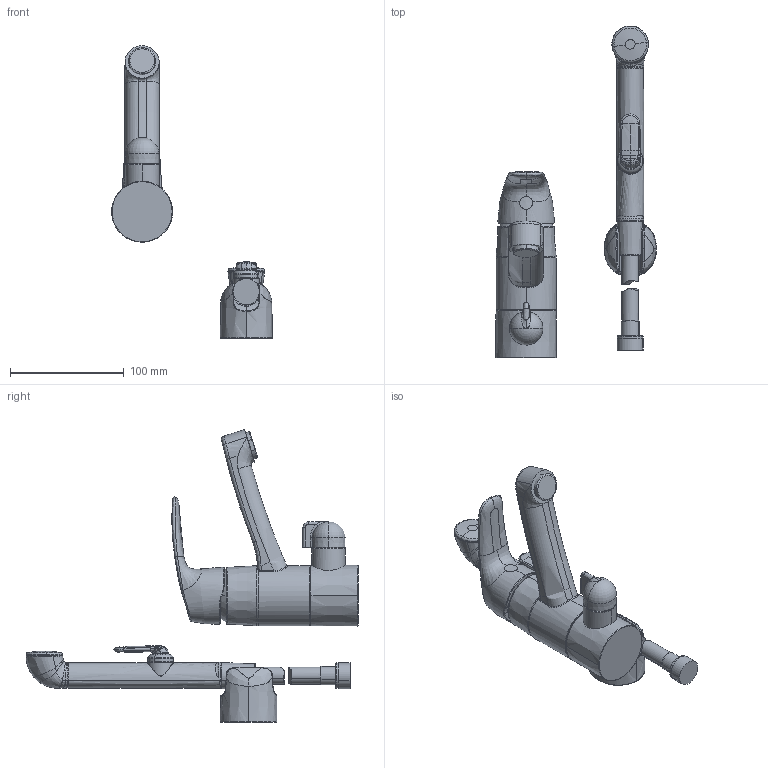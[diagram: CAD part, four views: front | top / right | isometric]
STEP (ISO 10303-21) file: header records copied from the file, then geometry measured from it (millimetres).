
FILE_DESCRIPTION (( 'STEP AP203' ), '1' );
FILE_NAME ('1014F(2021).STEP', '2021-01-19T08:48:26', ( '' ), ( '' ), 'SwSTEP 2.0', 'SolidWorks 2016', '' );
FILE_SCHEMA (( 'CONFIG_CONTROL_DESIGN' ));
Length unit declared in the file: millimetre
Products named in the file (1): 1014F(2021)
Bounding box: 141.55 x 292.35 x 257.83 mm (x, y, z)
Volume: 626190.4 mm3; surface area: 100823 mm2
Topology: 13 solids, 13 shells, 485 faces, 1471 edges, 1010 vertices
Faces by surface type: bspline 293, cylinder 67, plane 56, torus 48, cone 19, sphere 2
Entity records: 52978 total; most frequent: CARTESIAN_POINT 42713, ORIENTED_EDGE 2920, EDGE_CURVE 1460, DIRECTION 1069, VERTEX_POINT 1010, B_SPLINE_CURVE_WITH_KNOTS 913, EDGE_LOOP 498, FACE_OUTER_BOUND 485
